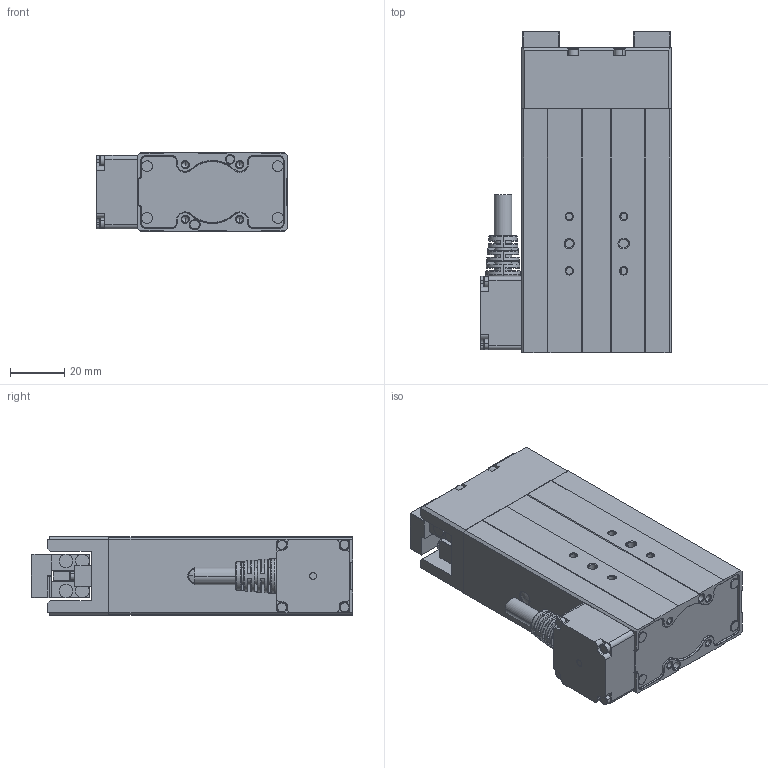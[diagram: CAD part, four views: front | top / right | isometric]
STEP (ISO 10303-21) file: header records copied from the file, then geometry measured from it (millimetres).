
FILE_DESCRIPTION (( 'STEP AP214' ), '1' );
FILE_NAME ('3D潠眢耀倰.STEP', '2025-07-07T09:29:55', ( '' ), ( '' ), 'SwSTEP 2.0', 'SolidWorks 2020', '' );
FILE_SCHEMA (( 'AUTOMOTIVE_DESIGN' ));
Length unit declared in the file: millimetre
Products named in the file (3): 3D潠眢耀倰; PGEA-15-26-W-O-F_V1.0 PGEA-50-26-W-O-F_V1.0 PGEA-100-26-O-F_V1.0_價釱; PGEA-15-26-W-O-F_V1.0 PGEA-50-26-W-O-F_V1.0 PGEA-100-26-O-F_V1.0_褲极
Assembly tree (3 placements, depth 2):
  3D潠眢耀倰
    PGEA-15-26-W-O-F_V1.0 PGEA-50-26-W-O-F_V1.0 PGEA-100-26-O-F_V1.0_褲极
    PGEA-15-26-W-O-F_V1.0 PGEA-50-26-W-O-F_V1.0 PGEA-100-26-O-F_V1.0_價釱  x2
Bounding box: 70 x 118 x 29 mm (x, y, z)
Volume: 183605 mm3; surface area: 45761.1 mm2
Topology: 35 solids, 35 shells, 1109 faces, 2585 edges, 1593 vertices
Faces by surface type: plane 429, cylinder 350, cone 248, torus 51, bspline 29, sphere 2
Entity records: 41584 total; most frequent: CARTESIAN_POINT 6631, DIRECTION 5094, ORIENTED_EDGE 4692, EDGE_CURVE 2346, AXIS2_PLACEMENT_3D 1920, VERTEX_POINT 1469, LINE 1254, VECTOR 1254
